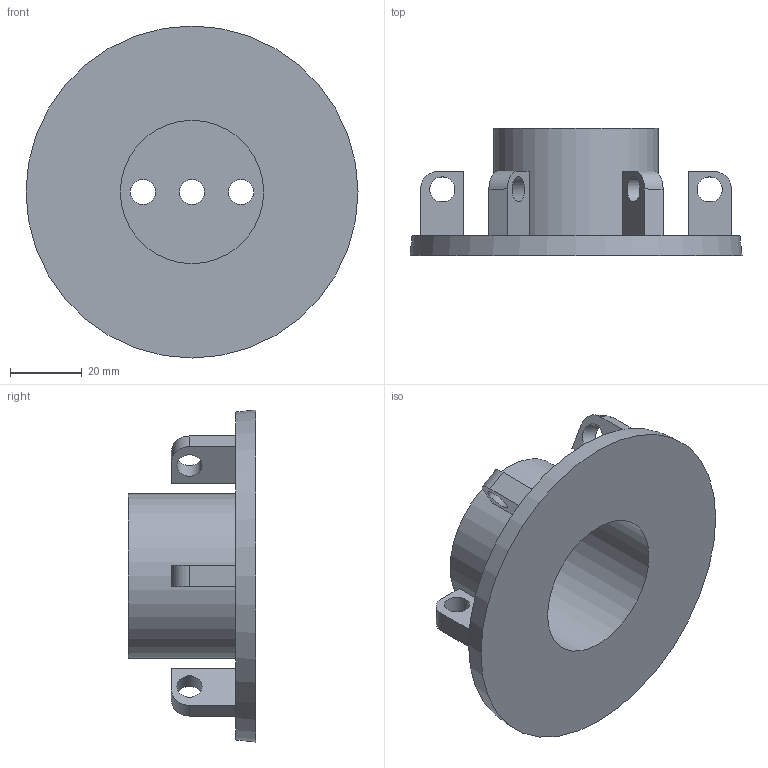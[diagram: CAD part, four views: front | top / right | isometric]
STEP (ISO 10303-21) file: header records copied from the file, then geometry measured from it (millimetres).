
FILE_DESCRIPTION(('STEP AP203'), '1');
FILE_NAME('head-main-lamp', '', ('UNSPECIFIED'), ('UNSPECIFIED'), 'ASCON STEP Converter 1.3', 'ASCON Math Kernel', '');
FILE_SCHEMA(('CONFIG_CONTROL_DESIGN'));
Length unit declared in the file: millimetre
Bounding box: 92.68 x 35.5 x 92.68 mm (x, y, z)
Volume: 51500.8 mm3; surface area: 27384.6 mm2
Topology: 1 solids, 1 shells, 52 faces, 126 edges, 84 vertices
Faces by surface type: plane 34, cylinder 17, cone 1
Full cylindrical faces by diameter (mm): 7 x9, 40 x1, 46 x1
Entity records: 1962 total; most frequent: DIRECTION 256, CARTESIAN_POINT 251, ORIENTED_EDGE 228, EDGE_CURVE 114, EDGE_LOOP 90, AXIS2_PLACEMENT_3D 89, VERTEX_POINT 84, LINE 78
